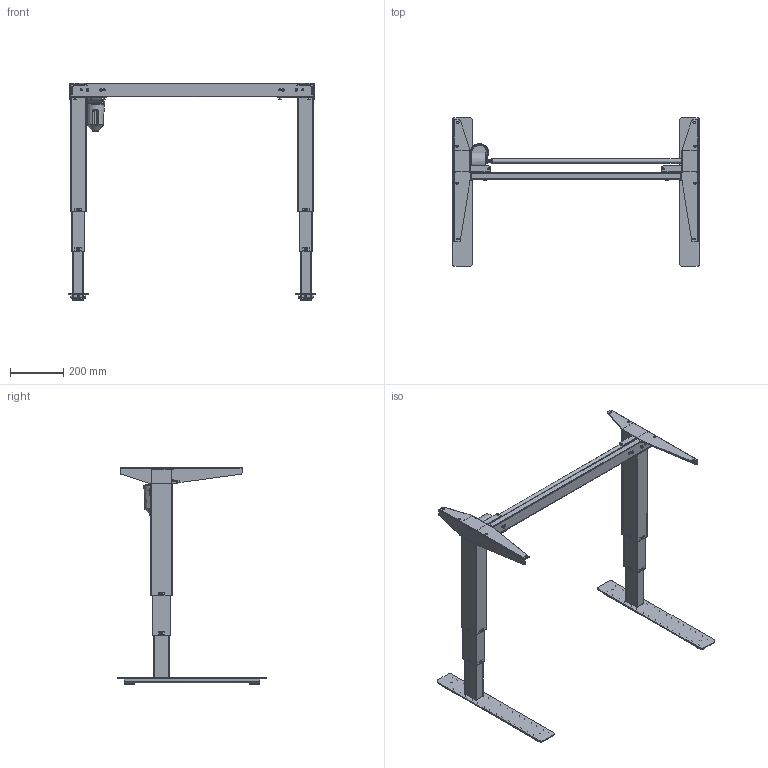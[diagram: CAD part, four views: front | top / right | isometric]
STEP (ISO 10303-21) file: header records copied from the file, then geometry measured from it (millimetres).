
FILE_DESCRIPTION (( 'STEP AP203' ), '1' );
FILE_NAME ('Tech-draw_501-37_XX092.STEP', '2019-09-25T11:32:08', ( '' ), ( '' ), 'SwSTEP 2.0', 'SolidWorks 2018', '' );
FILE_SCHEMA (( 'CONFIG_CONTROL_DESIGN' ));
Length unit declared in the file: millimetre
Products named in the file (32): 148070_silver1; 144260_92; 347910_92; 138750_silver; 138780_silver; 332570; 138770_silver; 341800_silver; 352610; 341130; 344070_shell view; 138800_silver1; 341220; 138790_silver1; 341120; 341180_shell view; 341170_shell view; 340560; 347920_92; 341150_shell view; 134920_silver1; Tech-draw_501-37_XX092; 149010_501-37 XS092; 138760_silver; 324520_silver; 340760; 344430_silver; 341140_shell view; 134950_silver1; 340540_shell view; 348720_shell view; 344080
Assembly tree (59 placements, depth 6):
  Tech-draw_501-37_XX092
    149010_501-37 XS092
      347910_92
      144260_92
        347920_92
        340560
        341220
      138760_silver
        148070_silver1
          341130
          341180_shell view
          348720_shell view
        138780_silver
          138800_silver1
            341150_shell view
            344070_shell view
            344080
          134950_silver1
            341140_shell view
          341800_silver  x4
        341800_silver  x4
        324520_silver  x2
        344430_silver
        352610
      138750_silver
        134920_silver1
          341120
          341170_shell view
          340540_shell view
        138770_silver
          138790_silver1
            341150_shell view
            344070_shell view
            344080
          134950_silver1
            341140_shell view
          341800_silver  x4
        341800_silver  x4
        324520_silver  x2
      340760  x4
      332570  x4
Bounding box: 929 x 558.8 x 817 mm (x, y, z)
Volume: 2622655.2 mm3; surface area: 2316982.4 mm2
Topology: 48 solids, 48 shells, 2808 faces, 7150 edges, 4475 vertices
Faces by surface type: plane 1641, cylinder 823, bspline 224, cone 69, torus 51
Full cylindrical faces by diameter (mm): 2.8 x4, 3 x2, 4.6 x4, 5 x4, 6 x10, 7 x8, 7.6 x4, 8 x13, 10 x8, 11.9 x2, 12 x1, 13 x2, 15 x4, 16 x2, 18 x1, 20 x1, 37.6 x8, 60 x1
Entity records: 70590 total; most frequent: CARTESIAN_POINT 30171, ORIENTED_EDGE 7766, DIRECTION 7278, EDGE_CURVE 3883, AXIS2_PLACEMENT_3D 2658, VERTEX_POINT 2509, VECTOR 1962, LINE 1962
